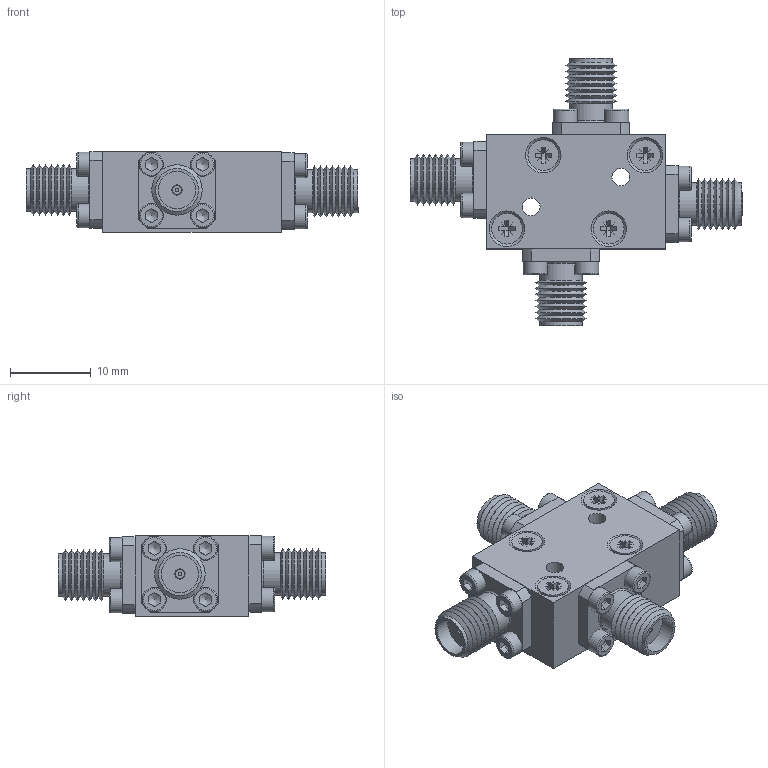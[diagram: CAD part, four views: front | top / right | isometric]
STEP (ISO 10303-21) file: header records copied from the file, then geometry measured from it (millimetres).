
FILE_DESCRIPTION(/* description */ ('Unknown'),/* implementation_level */ '2;1');
FILE_NAME(/* name */ 'DETI_MICROWAVE_HYBRID_COUPLER_800301_STEP',/* time_stamp */ '2022-06-03T11:02:21+02:00',/* author */ ('Unknown'),/* organization */ ('Unknown'),/* preprocessor_version */ 'ST-DEVELOPER v18.1',/* originating_system */ 'Solid Edge',/* authorisation */ 'Unknown');
FILE_SCHEMA (('AUTOMOTIVE_DESIGN {1 0 10303 214 3 1 1}'));
Length unit declared in the file: millimetre
Products named in the file (1): 800301 1601A2
Bounding box: 41.1 x 33.1 x 10 mm (x, y, z)
Volume: 4174.6 mm3; surface area: 3949.3 mm2
Topology: 1 solids, 37 shells, 598 faces, 1419 edges, 929 vertices
Faces by surface type: plane 348, cylinder 130, cone 96, torus 24
Full cylindrical faces by diameter (mm): 0.47 x4, 1.1 x4, 1.221 x16, 1.27 x8, 1.6 x16, 1.8 x16, 2 x4, 2.2 x6, 3 x16, 3.8 x4, 4.1 x4, 4.6 x4, 5.3 x8
Entity records: 19564 total; most frequent: CARTESIAN_POINT 2895, DIRECTION 2514, ORIENTED_EDGE 2176, EDGE_CURVE 1088, FACE_BOUND 940, AXIS2_PLACEMENT_3D 935, EDGE_LOOP 908, VERTEX_POINT 856
